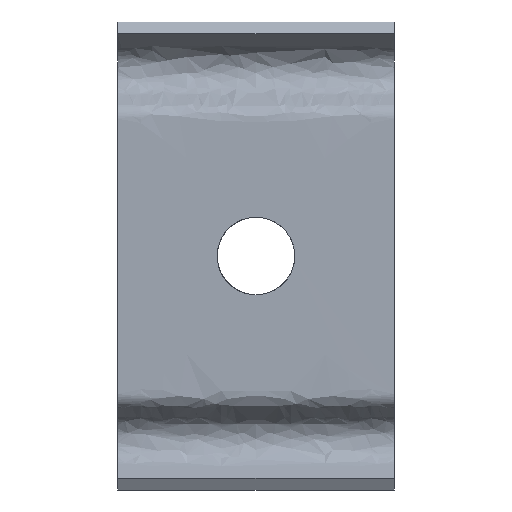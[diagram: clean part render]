
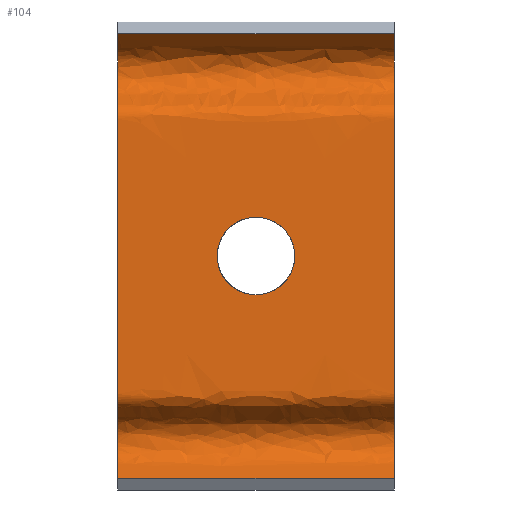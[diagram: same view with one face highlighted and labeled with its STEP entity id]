
A CAD part, front view. The second image highlights one B-rep face of the part: STEP entity #104.
In plain terms, the highlighted free-form (B-spline) face has degree [1, 2] with [2, 23] control points.
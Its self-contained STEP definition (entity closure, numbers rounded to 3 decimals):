
#16=FACE_BOUND($,#124,.T.);
#104=ADVANCED_FACE($,(#113,#16),#246,.T.);
#113=FACE_OUTER_BOUND($,#123,.T.);
#123=EDGE_LOOP($,(#146,#147,#148,#149));
#124=EDGE_LOOP($,(#150));
#146=ORIENTED_EDGE($,*,*,#184,.T.);
#147=ORIENTED_EDGE($,*,*,#186,.T.);
#148=ORIENTED_EDGE($,*,*,#185,.F.);
#149=ORIENTED_EDGE($,*,*,#187,.F.);
#150=ORIENTED_EDGE($,*,*,#188,.F.);
#184=EDGE_CURVE($,#221,#220,#275,.T.);
#185=EDGE_CURVE($,#223,#222,#276,.T.);
#186=EDGE_CURVE($,#220,#222,#256,.T.);
#187=EDGE_CURVE($,#221,#223,#257,.T.);
#188=EDGE_CURVE($,#224,#224,#277,.T.);
#220=VERTEX_POINT($,#564);
#221=VERTEX_POINT($,#565);
#222=VERTEX_POINT($,#566);
#223=VERTEX_POINT($,#567);
#224=VERTEX_POINT($,#568);
#246=(
BOUNDED_SURFACE()
B_SPLINE_SURFACE(1,2,((#518,#519,#520,#521,#522,#523,#524,#525,#526,#527,
#528,#529,#530,#531,#532,#533,#534,#535,#536,#537,#538,#539,#540),(#541,
#542,#543,#544,#545,#546,#547,#548,#549,#550,#551,#552,#553,#554,#555,#556,
#557,#558,#559,#560,#561,#562,#563)),.UNSPECIFIED.,.F.,.F.,.F.)
B_SPLINE_SURFACE_WITH_KNOTS((2,2),(3,2,2,2,2,2,2,2,2,2,2,3),(0.,30.),(-49.132,
-48.786,-45.673,-42.56,-42.348,-40.273,
-10.704,-8.629,-8.418,-5.305,-2.192,
-1.846),.UNSPECIFIED.)
GEOMETRIC_REPRESENTATION_ITEM()
RATIONAL_B_SPLINE_SURFACE(((1.,1.,1.,0.868,1.,0.868,
1.,1.,1.,0.868,1.,1.,1.,0.868,1.,1.,1.,0.868,
1.,0.868,1.,1.,1.),(1.,1.,1.,0.868,1.,0.868,
1.,1.,1.,0.868,1.,1.,1.,0.868,1.,1.,1.,0.868,
1.,0.868,1.,1.,1.)))
REPRESENTATION_ITEM($)
SURFACE()
);
#256=B_SPLINE_CURVE_WITH_KNOTS($,1,(#505,#506),.UNSPECIFIED.,.F.,.F.,(2,
2),(0.,30.),.UNSPECIFIED.);
#257=B_SPLINE_CURVE_WITH_KNOTS($,1,(#507,#508),.UNSPECIFIED.,.F.,.F.,(2,
2),(0.,30.),.UNSPECIFIED.);
#275=(
BOUNDED_CURVE()
B_SPLINE_CURVE(2,(#459,#460,#461,#462,#463,#464,#465,#466,#467,#468,#469,
#470,#471,#472,#473,#474,#475,#476,#477,#478,#479,#480,#481),.UNSPECIFIED.,
.F.,.F.)
B_SPLINE_CURVE_WITH_KNOTS((3,2,2,2,2,2,2,2,2,2,2,3),(1.846,2.192,
5.305,8.418,8.629,10.704,40.273,
42.348,42.56,45.673,48.786,49.132),
.UNSPECIFIED.)
CURVE()
GEOMETRIC_REPRESENTATION_ITEM()
RATIONAL_B_SPLINE_CURVE((1.,1.,1.,0.868,1.,0.868,
1.,1.,1.,0.868,1.,1.,1.,0.868,1.,1.,1.,0.868,
1.,0.868,1.,1.,1.))
REPRESENTATION_ITEM($)
);
#276=(
BOUNDED_CURVE()
B_SPLINE_CURVE(2,(#482,#483,#484,#485,#486,#487,#488,#489,#490,#491,#492,
#493,#494,#495,#496,#497,#498,#499,#500,#501,#502,#503,#504),.UNSPECIFIED.,
.F.,.F.)
B_SPLINE_CURVE_WITH_KNOTS((3,2,2,2,2,2,2,2,2,2,2,3),(1.846,2.192,
5.305,8.418,8.629,10.704,40.273,
42.348,42.56,45.673,48.786,49.132),
.UNSPECIFIED.)
CURVE()
GEOMETRIC_REPRESENTATION_ITEM()
RATIONAL_B_SPLINE_CURVE((1.,1.,1.,0.868,1.,0.868,
1.,1.,1.,0.868,1.,1.,1.,0.868,1.,1.,1.,0.868,
1.,0.868,1.,1.,1.))
REPRESENTATION_ITEM($)
);
#277=(
BOUNDED_CURVE()
B_SPLINE_CURVE(2,(#509,#510,#511,#512,#513,#514,#515,#516,#517),.UNSPECIFIED.,
.T.,.F.)
B_SPLINE_CURVE_WITH_KNOTS((3,2,2,2,3),(-26.386,-19.79,
-13.193,-6.597,0.),.UNSPECIFIED.)
CURVE()
GEOMETRIC_REPRESENTATION_ITEM()
RATIONAL_B_SPLINE_CURVE((1.,0.707,1.,0.707,1.,0.707,
1.,0.707,1.))
REPRESENTATION_ITEM($)
);
#459=CARTESIAN_POINT($,(-15.,-1.,24.074));
#460=CARTESIAN_POINT($,(-15.,0.262,23.329));
#461=CARTESIAN_POINT($,(-15.,1.525,22.584));
#462=CARTESIAN_POINT($,(-15.,3.,21.713));
#463=CARTESIAN_POINT($,(-15.,3.,20.));
#464=CARTESIAN_POINT($,(-15.,3.,18.287));
#465=CARTESIAN_POINT($,(-15.,1.525,17.416));
#466=CARTESIAN_POINT($,(-15.,0.754,16.962));
#467=CARTESIAN_POINT($,(-15.,-0.017,16.507));
#468=CARTESIAN_POINT($,(-15.,-1.,15.926));
#469=CARTESIAN_POINT($,(-15.,-1.,14.784));
#470=CARTESIAN_POINT($,(-15.,-1.,0.));
#471=CARTESIAN_POINT($,(-15.,-1.,-14.784));
#472=CARTESIAN_POINT($,(-15.,-1.,-15.926));
#473=CARTESIAN_POINT($,(-15.,-0.017,-16.507));
#474=CARTESIAN_POINT($,(-15.,0.754,-16.962));
#475=CARTESIAN_POINT($,(-15.,1.525,-17.416));
#476=CARTESIAN_POINT($,(-15.,3.,-18.287));
#477=CARTESIAN_POINT($,(-15.,3.,-20.));
#478=CARTESIAN_POINT($,(-15.,3.,-21.713));
#479=CARTESIAN_POINT($,(-15.,1.525,-22.584));
#480=CARTESIAN_POINT($,(-15.,0.262,-23.329));
#481=CARTESIAN_POINT($,(-15.,-1.,-24.074));
#482=CARTESIAN_POINT($,(15.,-1.,24.074));
#483=CARTESIAN_POINT($,(15.,0.262,23.329));
#484=CARTESIAN_POINT($,(15.,1.525,22.584));
#485=CARTESIAN_POINT($,(15.,3.,21.713));
#486=CARTESIAN_POINT($,(15.,3.,20.));
#487=CARTESIAN_POINT($,(15.,3.,18.287));
#488=CARTESIAN_POINT($,(15.,1.525,17.416));
#489=CARTESIAN_POINT($,(15.,0.754,16.962));
#490=CARTESIAN_POINT($,(15.,-0.017,16.507));
#491=CARTESIAN_POINT($,(15.,-1.,15.926));
#492=CARTESIAN_POINT($,(15.,-1.,14.784));
#493=CARTESIAN_POINT($,(15.,-1.,0.));
#494=CARTESIAN_POINT($,(15.,-1.,-14.784));
#495=CARTESIAN_POINT($,(15.,-1.,-15.926));
#496=CARTESIAN_POINT($,(15.,-0.017,-16.507));
#497=CARTESIAN_POINT($,(15.,0.754,-16.962));
#498=CARTESIAN_POINT($,(15.,1.525,-17.416));
#499=CARTESIAN_POINT($,(15.,3.,-18.287));
#500=CARTESIAN_POINT($,(15.,3.,-20.));
#501=CARTESIAN_POINT($,(15.,3.,-21.713));
#502=CARTESIAN_POINT($,(15.,1.525,-22.584));
#503=CARTESIAN_POINT($,(15.,0.262,-23.329));
#504=CARTESIAN_POINT($,(15.,-1.,-24.074));
#505=CARTESIAN_POINT($,(-15.,-1.,-24.074));
#506=CARTESIAN_POINT($,(15.,-1.,-24.074));
#507=CARTESIAN_POINT($,(-15.,-1.,24.074));
#508=CARTESIAN_POINT($,(15.,-1.,24.074));
#509=CARTESIAN_POINT($,(0.,-1.,-4.2));
#510=CARTESIAN_POINT($,(4.2,-1.,-4.2));
#511=CARTESIAN_POINT($,(4.2,-1.,0.));
#512=CARTESIAN_POINT($,(4.2,-1.,4.2));
#513=CARTESIAN_POINT($,(0.,-1.,4.2));
#514=CARTESIAN_POINT($,(-4.2,-1.,4.2));
#515=CARTESIAN_POINT($,(-4.2,-1.,0.));
#516=CARTESIAN_POINT($,(-4.2,-1.,-4.2));
#517=CARTESIAN_POINT($,(0.,-1.,-4.2));
#518=CARTESIAN_POINT($,(-15.,-1.,-24.074));
#519=CARTESIAN_POINT($,(-15.,0.262,-23.329));
#520=CARTESIAN_POINT($,(-15.,1.525,-22.584));
#521=CARTESIAN_POINT($,(-15.,3.,-21.713));
#522=CARTESIAN_POINT($,(-15.,3.,-20.));
#523=CARTESIAN_POINT($,(-15.,3.,-18.287));
#524=CARTESIAN_POINT($,(-15.,1.525,-17.416));
#525=CARTESIAN_POINT($,(-15.,0.754,-16.962));
#526=CARTESIAN_POINT($,(-15.,-0.017,-16.507));
#527=CARTESIAN_POINT($,(-15.,-1.,-15.926));
#528=CARTESIAN_POINT($,(-15.,-1.,-14.784));
#529=CARTESIAN_POINT($,(-15.,-1.,0.));
#530=CARTESIAN_POINT($,(-15.,-1.,14.784));
#531=CARTESIAN_POINT($,(-15.,-1.,15.926));
#532=CARTESIAN_POINT($,(-15.,-0.017,16.507));
#533=CARTESIAN_POINT($,(-15.,0.754,16.962));
#534=CARTESIAN_POINT($,(-15.,1.525,17.416));
#535=CARTESIAN_POINT($,(-15.,3.,18.287));
#536=CARTESIAN_POINT($,(-15.,3.,20.));
#537=CARTESIAN_POINT($,(-15.,3.,21.713));
#538=CARTESIAN_POINT($,(-15.,1.525,22.584));
#539=CARTESIAN_POINT($,(-15.,0.262,23.329));
#540=CARTESIAN_POINT($,(-15.,-1.,24.074));
#541=CARTESIAN_POINT($,(15.,-1.,-24.074));
#542=CARTESIAN_POINT($,(15.,0.262,-23.329));
#543=CARTESIAN_POINT($,(15.,1.525,-22.584));
#544=CARTESIAN_POINT($,(15.,3.,-21.713));
#545=CARTESIAN_POINT($,(15.,3.,-20.));
#546=CARTESIAN_POINT($,(15.,3.,-18.287));
#547=CARTESIAN_POINT($,(15.,1.525,-17.416));
#548=CARTESIAN_POINT($,(15.,0.754,-16.962));
#549=CARTESIAN_POINT($,(15.,-0.017,-16.507));
#550=CARTESIAN_POINT($,(15.,-1.,-15.926));
#551=CARTESIAN_POINT($,(15.,-1.,-14.784));
#552=CARTESIAN_POINT($,(15.,-1.,0.));
#553=CARTESIAN_POINT($,(15.,-1.,14.784));
#554=CARTESIAN_POINT($,(15.,-1.,15.926));
#555=CARTESIAN_POINT($,(15.,-0.017,16.507));
#556=CARTESIAN_POINT($,(15.,0.754,16.962));
#557=CARTESIAN_POINT($,(15.,1.525,17.416));
#558=CARTESIAN_POINT($,(15.,3.,18.287));
#559=CARTESIAN_POINT($,(15.,3.,20.));
#560=CARTESIAN_POINT($,(15.,3.,21.713));
#561=CARTESIAN_POINT($,(15.,1.525,22.584));
#562=CARTESIAN_POINT($,(15.,0.262,23.329));
#563=CARTESIAN_POINT($,(15.,-1.,24.074));
#564=CARTESIAN_POINT($,(-15.,-1.,-24.074));
#565=CARTESIAN_POINT($,(-15.,-1.,24.074));
#566=CARTESIAN_POINT($,(15.,-1.,-24.074));
#567=CARTESIAN_POINT($,(15.,-1.,24.074));
#568=CARTESIAN_POINT($,(0.,-1.,-4.2));
